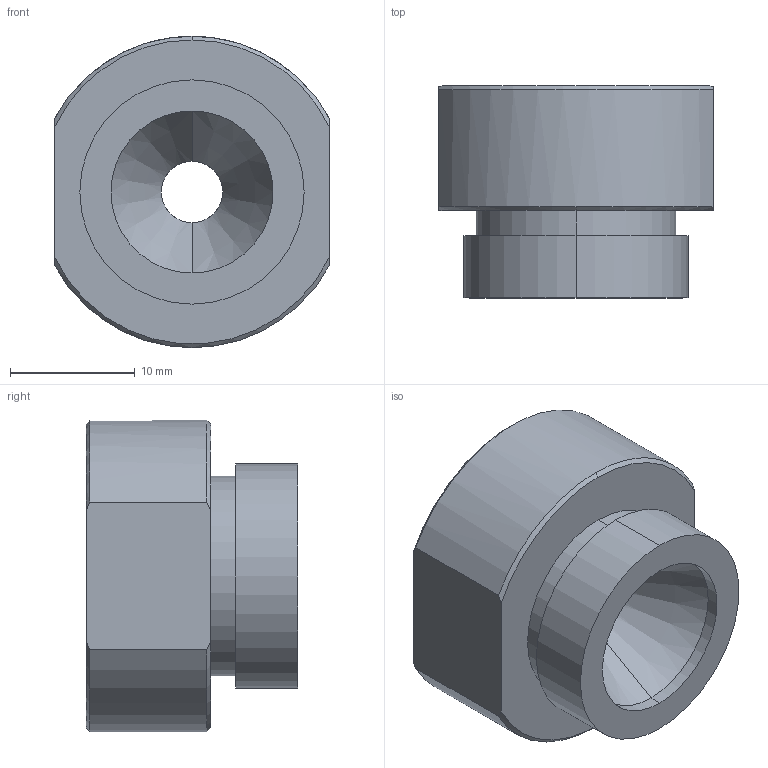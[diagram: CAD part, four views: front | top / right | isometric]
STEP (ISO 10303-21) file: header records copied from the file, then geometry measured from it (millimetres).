
FILE_DESCRIPTION (( 'STEP AP203' ), '1' );
FILE_NAME ('SW-PN-C4A.STEP', '2022-04-06T02:20:42', ( '' ), ( '' ), 'SwSTEP 2.0', 'SolidWorks 2015', '' );
FILE_SCHEMA (( 'CONFIG_CONTROL_DESIGN' ));
Length unit declared in the file: millimetre
Products named in the file (2): SW-PN-C4A
Bounding box: 22 x 17 x 25 mm (x, y, z)
Volume: 5556.5 mm3; surface area: 2434.9 mm2
Topology: 1 solids, 1 shells, 28 faces, 64 edges, 41 vertices
Faces by surface type: cylinder 11, cone 10, plane 7
Entity records: 968 total; most frequent: CARTESIAN_POINT 159, DIRECTION 149, ORIENTED_EDGE 128, EDGE_CURVE 64, AXIS2_PLACEMENT_3D 63, VERTEX_POINT 41, EDGE_LOOP 33, CIRCLE 33
